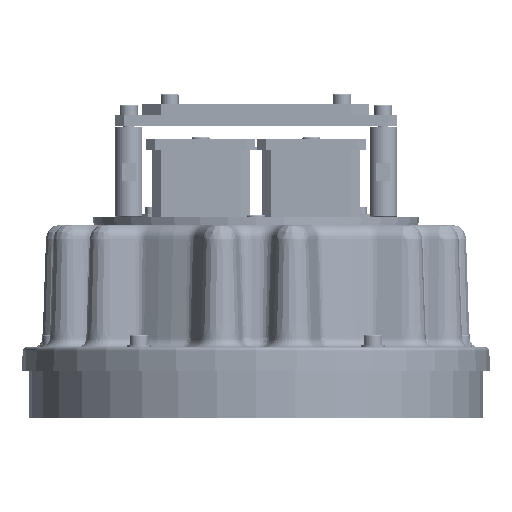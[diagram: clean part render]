
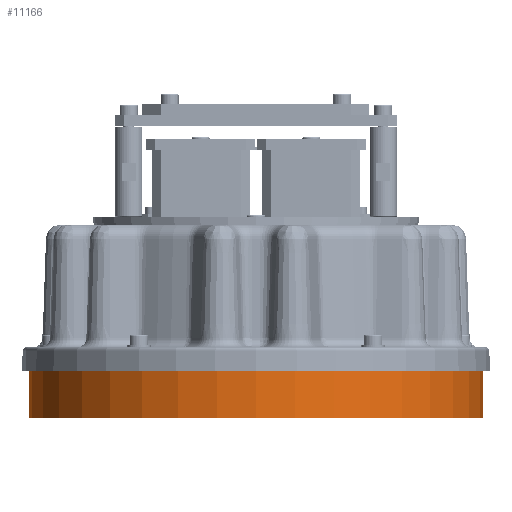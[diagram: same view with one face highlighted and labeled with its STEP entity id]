
A CAD part, left-side view. The second image highlights one B-rep face of the part: STEP entity #11166.
In plain terms, the highlighted cylindrical face has radius 125 mm (diameter 250 mm), a partial arc.
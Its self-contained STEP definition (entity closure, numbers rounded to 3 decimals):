
#11166=ADVANCED_FACE('',(#22014),#22015,.T.);
#22014=FACE_OUTER_BOUND('',#34972,.T.);
#22015=CYLINDRICAL_SURFACE('',#34973,125.0);
#34972=EDGE_LOOP('',(#56546,#56547,#56548,#56549));
#34973=AXIS2_PLACEMENT_3D('',#56550,#56551,#56552);
#56546=ORIENTED_EDGE('',*,*,#67176,.T.);
#56547=ORIENTED_EDGE('',*,*,#67170,.F.);
#56548=ORIENTED_EDGE('',*,*,#67177,.F.);
#56549=ORIENTED_EDGE('',*,*,#67178,.T.);
#56550=CARTESIAN_POINT('',(-698.769,-468.911,76.629));
#56551=DIRECTION('',(0.0,0.0,-1.0));
#56552=DIRECTION('',(-1.0,0.0,0.0));
#67170=EDGE_CURVE('',#79242,#79237,#79244,.T.);
#67176=EDGE_CURVE('',#79252,#79237,#79253,.T.);
#67177=EDGE_CURVE('',#79254,#79242,#79255,.T.);
#67178=EDGE_CURVE('',#79254,#79252,#79256,.T.);
#79237=VERTEX_POINT('',#95617);
#79242=VERTEX_POINT('',#95624);
#79244=LINE('',#95627,#95628);
#79252=VERTEX_POINT('',#95637);
#79253=CIRCLE('',#95638,125.0);
#79254=VERTEX_POINT('',#95639);
#79255=CIRCLE('',#95640,125.0);
#79256=LINE('',#95641,#95642);
#95617=CARTESIAN_POINT('',(-698.769,-593.911,43.629));
#95624=CARTESIAN_POINT('',(-698.769,-593.911,76.629));
#95627=CARTESIAN_POINT('',(-698.769,-593.911,76.629));
#95628=VECTOR('',#107149,1.0);
#95637=CARTESIAN_POINT('',(-698.769,-343.911,43.629));
#95638=AXIS2_PLACEMENT_3D('',#107157,#107158,#107159);
#95639=CARTESIAN_POINT('',(-698.769,-343.911,76.629));
#95640=AXIS2_PLACEMENT_3D('',#107160,#107161,#107162);
#95641=CARTESIAN_POINT('',(-698.769,-343.911,76.629));
#95642=VECTOR('',#107163,1.0);
#107149=DIRECTION('',(0.0,0.0,-1.0));
#107157=CARTESIAN_POINT('',(-698.769,-468.911,43.629));
#107158=DIRECTION('',(0.0,0.0,1.0));
#107159=DIRECTION('',(1.0,0.0,0.0));
#107160=CARTESIAN_POINT('',(-698.769,-468.911,76.629));
#107161=DIRECTION('',(0.0,0.0,1.0));
#107162=DIRECTION('',(1.0,0.0,0.0));
#107163=DIRECTION('',(0.0,0.0,-1.0));
